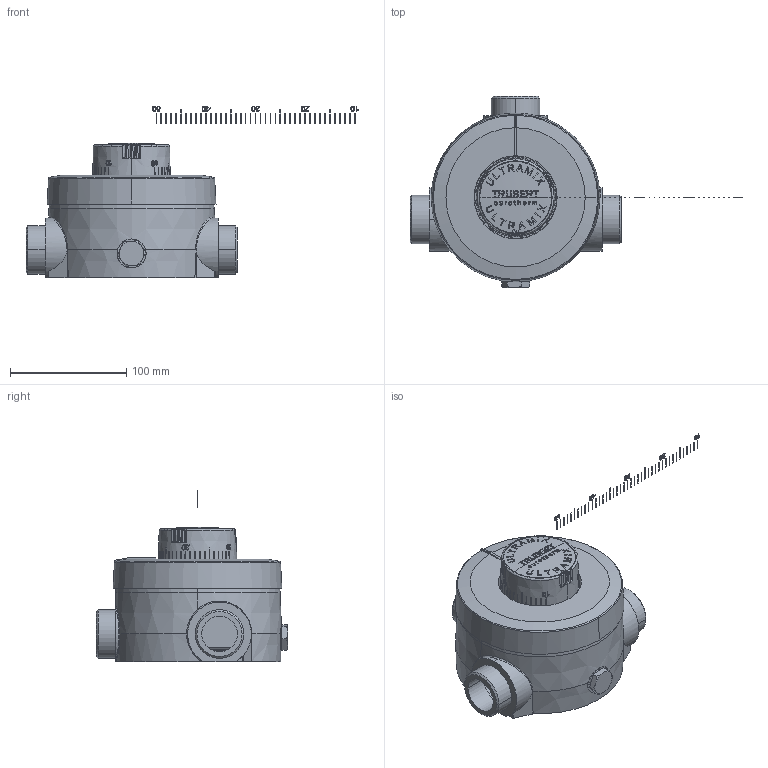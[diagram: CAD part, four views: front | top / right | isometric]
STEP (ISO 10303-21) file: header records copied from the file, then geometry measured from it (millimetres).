
FILE_DESCRIPTION (( 'STEP AP214' ), '1' );
FILE_NAME ('22TX94E.STEP', '2017-12-19T08:44:53', ( '' ), ( '' ), 'SwSTEP 2.0', 'SolidWorks 2017', '' );
FILE_SCHEMA (( 'AUTOMOTIVE_DESIGN' ));
Length unit declared in the file: millimetre
Products named in the file (30): 22108437; 22108411_22108411; 22108328; 22014886; 22TX94E; 22018971; 22012567; 22100720; 22029420; 22100317_22100317N; 22100330; 22108332; 22019480; 22108507; 22100382; 22108405; 22014733; 22108408; 22108024GR; 22108400; 22108019; 22100020_22100020; 22108014GR; 22108314_22100745; 22108450; 22108316; 22014508; 22012400U_22012400U; 22080400_enveloppe; 22010428_22010428
Assembly tree (41 placements, depth 5):
  22TX94E
    22108411_22108411
    22080400_enveloppe
      22010428_22010428
      22029420
        22012400U_22012400U
        22108316
        22108314_22100745
        22100020_22100020
        22019480
          22108400
          22108408
          22108405
          22108507
        22108332  x2
        22100330  x2
        22100317_22100317N
      22100720  x2
      22012567  x2
      22018971  x2
      22014886  x2
      22108328  x2
      22108437
    22014508  x6
    22108450
    22108014GR
    22108019
    22108024GR
    22014733
    22100382
Bounding box: 286.11 x 164.77 x 147.9 mm (x, y, z)
Volume: 653232.2 mm3; surface area: 327246.1 mm2
Topology: 93 solids, 93 shells, 2981 faces, 7399 edges, 4586 vertices
Faces by surface type: plane 1189, cylinder 555, cone 485, bspline 450, torus 201, sphere 101
Entity records: 122198 total; most frequent: CARTESIAN_POINT 51626, ORIENTED_EDGE 14042, DIRECTION 11630, EDGE_CURVE 7021, AXIS2_PLACEMENT_3D 4464, VERTEX_POINT 4396, EDGE_LOOP 3045, ADVANCED_FACE 2828
